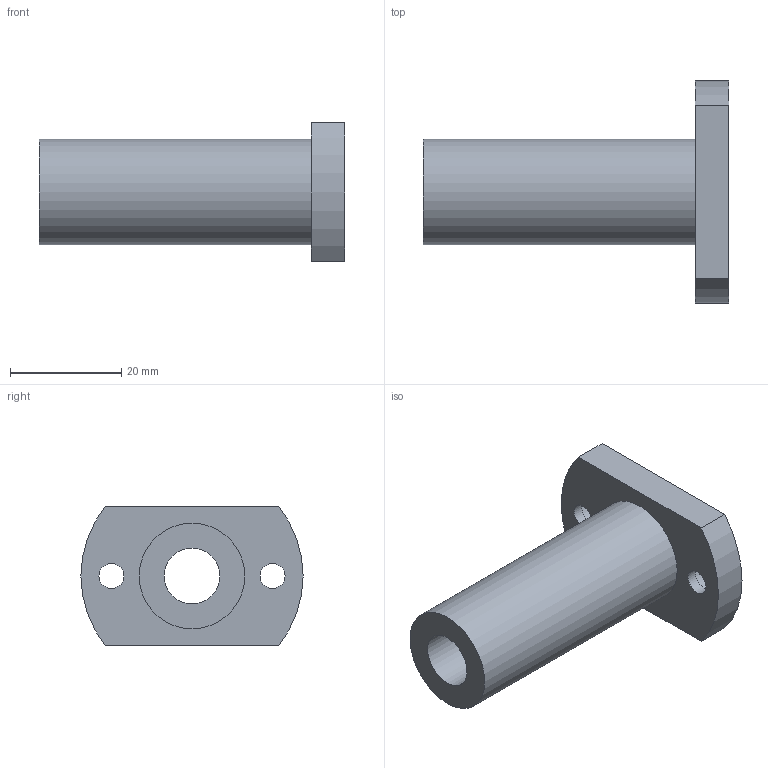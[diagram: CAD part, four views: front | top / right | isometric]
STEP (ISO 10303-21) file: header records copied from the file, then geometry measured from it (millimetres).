
FILE_DESCRIPTION(/* description */ ('Unknown'),/* implementation_level */ '2;1');
FILE_NAME(/* name */ 'LMH10LUU',/* time_stamp */ '2025-02-04T10:27:27+08:00',/* author */ ('Unknown'),/* organization */ ('Unknown'),/* preprocessor_version */ 'ST-DEVELOPER v18.102',/* originating_system */ 'Solid Edge',/* authorisation */ 'Unknown');
FILE_SCHEMA (('AUTOMOTIVE_DESIGN {1 0 10303 214 3 1 1}'));
Length unit declared in the file: millimetre
Products named in the file (1): LMH10LUU
Bounding box: 55 x 40 x 25 mm (x, y, z)
Volume: 14733 mm3; surface area: 7238.5 mm2
Topology: 1 solids, 1 shells, 15 faces, 30 edges, 20 vertices
Faces by surface type: cylinder 8, plane 7
Full cylindrical faces by diameter (mm): 4.5 x2, 7.5 x2, 10 x1, 19 x1
Entity records: 412 total; most frequent: DIRECTION 72, CARTESIAN_POINT 60, ORIENTED_EDGE 48, AXIS2_PLACEMENT_3D 32, EDGE_LOOP 30, FACE_BOUND 30, EDGE_CURVE 24, VERTEX_POINT 20
